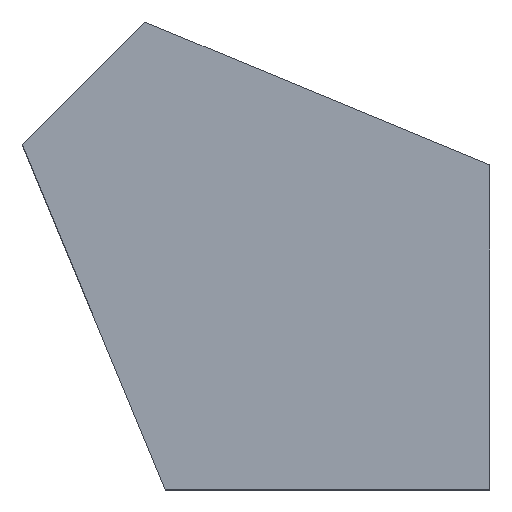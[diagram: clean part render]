
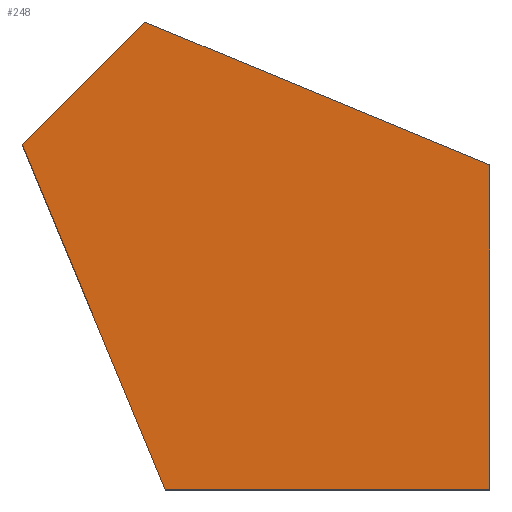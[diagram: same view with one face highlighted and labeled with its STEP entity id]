
A CAD part, top view. The second image highlights one B-rep face of the part: STEP entity #248.
In plain terms, the highlighted planar face has unit normal (0, 0, 1).
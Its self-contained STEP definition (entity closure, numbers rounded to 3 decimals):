
#73=CARTESIAN_POINT('',(-20.0,0.0,20.0));
#74=VERTEX_POINT('',#73);
#75=CARTESIAN_POINT('',(-28.802,21.249,20.0));
#76=VERTEX_POINT('',#75);
#77=CARTESIAN_POINT('',(-20.0,0.0,20.0));
#78=DIRECTION('',(-0.383,0.924,0.0));
#79=VECTOR('',#78,23.0);
#80=LINE('',#77,#79);
#81=EDGE_CURVE('',#74,#76,#80,.T.);
#113=CARTESIAN_POINT('',(-21.249,28.802,20.0));
#114=VERTEX_POINT('',#113);
#115=CARTESIAN_POINT('',(-28.802,21.249,20.0));
#116=DIRECTION('',(0.707,0.707,0.0));
#117=VECTOR('',#116,10.681);
#118=LINE('',#115,#117);
#119=EDGE_CURVE('',#76,#114,#118,.T.);
#144=CARTESIAN_POINT('',(0.0,20.0,20.0));
#145=VERTEX_POINT('',#144);
#146=CARTESIAN_POINT('',(-21.249,28.802,20.0));
#147=DIRECTION('',(0.924,-0.383,0.0));
#148=VECTOR('',#147,23.);
#149=LINE('',#146,#148);
#150=EDGE_CURVE('',#114,#145,#149,.T.);
#175=CARTESIAN_POINT('',(0.,0.0,20.0));
#176=VERTEX_POINT('',#175);
#177=CARTESIAN_POINT('',(0.0,20.0,20.0));
#178=DIRECTION('',(0.0,-1.0,0.0));
#179=VECTOR('',#178,20.0);
#180=LINE('',#177,#179);
#181=EDGE_CURVE('',#145,#176,#180,.T.);
#206=CARTESIAN_POINT('',(0.,0.0,20.0));
#207=DIRECTION('',(-1.0,0.0,0.0));
#208=VECTOR('',#207,20.0);
#209=LINE('',#206,#208);
#210=EDGE_CURVE('',#176,#74,#209,.T.);
#236=CARTESIAN_POINT('',(-13.166,13.166,20.0));
#237=DIRECTION('',(0.0,0.0,1.0));
#238=DIRECTION('',(1.0,0.0,0.0));
#239=AXIS2_PLACEMENT_3D('',#236,#237,#238);
#240=PLANE('',#239);
#241=ORIENTED_EDGE('',*,*,#81,.F.);
#242=ORIENTED_EDGE('',*,*,#210,.F.);
#243=ORIENTED_EDGE('',*,*,#181,.F.);
#244=ORIENTED_EDGE('',*,*,#150,.F.);
#245=ORIENTED_EDGE('',*,*,#119,.F.);
#246=EDGE_LOOP('',(#241,#242,#243,#244,#245));
#247=FACE_OUTER_BOUND('',#246,.T.);
#248=ADVANCED_FACE('',(#247),#240,.T.);
